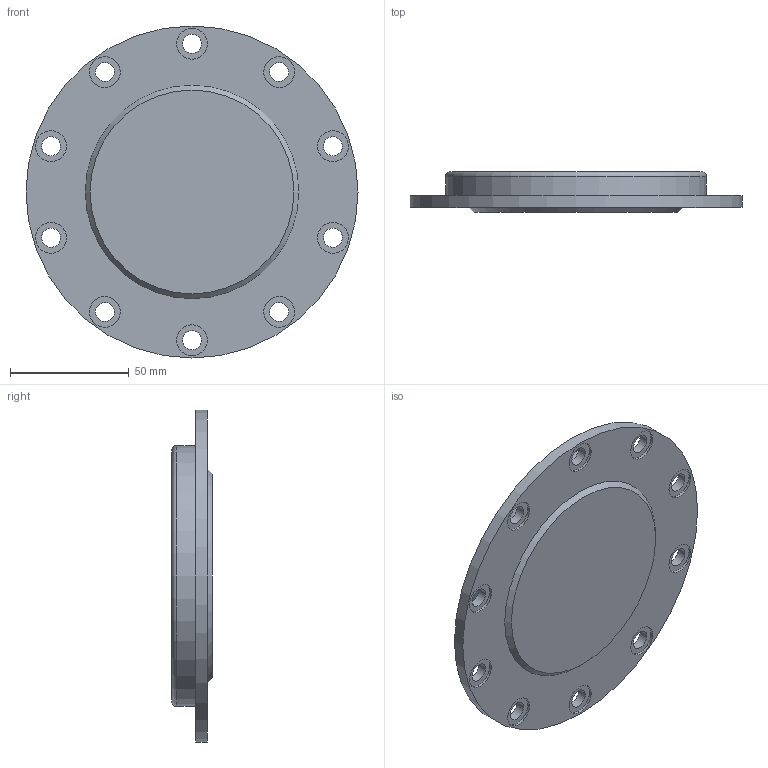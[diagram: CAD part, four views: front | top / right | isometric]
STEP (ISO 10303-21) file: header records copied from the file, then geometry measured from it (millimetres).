
FILE_DESCRIPTION(/* description */ (''),/* implementation_level */ '2;1');
FILE_NAME(/* name */ 'G:\YandexDisk\Работа\Inventor\Универ\ОАП\Лабораторные работы\ЛР6 Создание сборок\Редуктор\stp\Подшипниковый щит 3.stp',/* time_stamp */ '2023-11-17T06:35:00+03:00',/* author */ ('34740'),/* organization */ (''),/* preprocessor_version */ 'ST-DEVELOPER v18.1',/* originating_system */ 'Autodesk Inventor 2022',/* authorisation */ '');
FILE_SCHEMA (('AUTOMOTIVE_DESIGN { 1 0 10303 214 3 1 1 }'));
Length unit declared in the file: millimetre
Products named in the file (1): Подшипниковый 
щит
Bounding box: 140 x 17 x 140 mm (x, y, z)
Volume: 111133.8 mm3; surface area: 39227.6 mm2
Topology: 1 solids, 1 shells, 42 faces, 81 edges, 54 vertices
Faces by surface type: cylinder 23, plane 15, torus 3, cone 1
Full cylindrical faces by diameter (mm): 8 x10, 13 x10, 94 x1, 110 x1, 140 x1
Entity records: 1183 total; most frequent: DIRECTION 224, CARTESIAN_POINT 178, ORIENTED_EDGE 162, AXIS2_PLACEMENT_3D 100, EDGE_CURVE 81, EDGE_LOOP 75, CIRCLE 57, VERTEX_POINT 54
